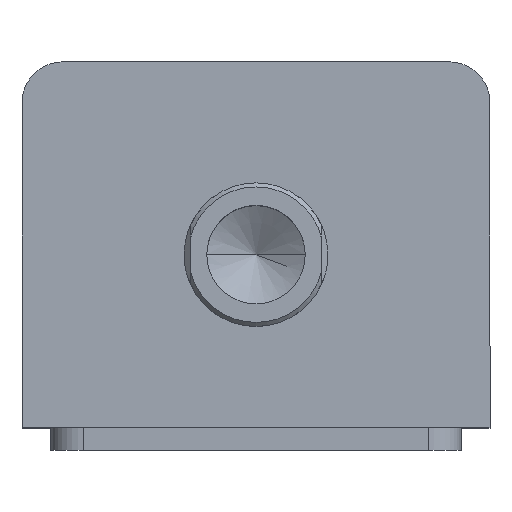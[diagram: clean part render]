
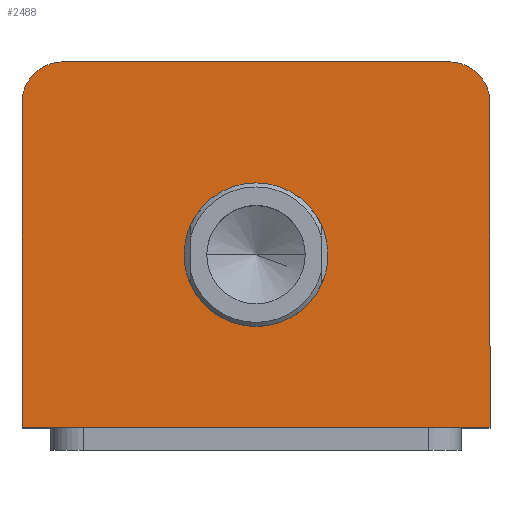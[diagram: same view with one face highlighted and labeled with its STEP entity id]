
A CAD part, top view. The second image highlights one B-rep face of the part: STEP entity #2488.
In plain terms, the highlighted planar face has unit normal (0, 0, 1).
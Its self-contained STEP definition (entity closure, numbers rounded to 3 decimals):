
#35 = CARTESIAN_POINT ( 'NONE',  ( -57., 44.5, 157. ) ) ;
#36 = DIRECTION ( 'NONE',  ( -1., 0., 0. ) ) ;
#67 = CARTESIAN_POINT ( 'NONE',  ( 47., 34.5, 157. ) ) ;
#68 = DIRECTION ( 'NONE',  ( 0., 0., 1. ) ) ;
#69 = DIRECTION ( 'NONE',  ( 1., 0., 0. ) ) ;
#94 = CARTESIAN_POINT ( 'NONE',  ( -47., 34.5, 157. ) ) ;
#95 = DIRECTION ( 'NONE',  ( 0., 0., 1. ) ) ;
#96 = DIRECTION ( 'NONE',  ( 1., 0., 0. ) ) ;
#104 = CARTESIAN_POINT ( 'NONE',  ( -57., 44.5, 157. ) ) ;
#105 = DIRECTION ( 'NONE',  ( 0., -1., 0. ) ) ;
#166 = CARTESIAN_POINT ( 'NONE',  ( -57., -44.5, 157. ) ) ;
#172 = DIRECTION ( 'NONE',  ( 1., 0., 0. ) ) ;
#189 = CARTESIAN_POINT ( 'NONE',  ( 0., -2.5, 157. ) ) ;
#190 = DIRECTION ( 'NONE',  ( 0., 0., 1. ) ) ;
#191 = DIRECTION ( 'NONE',  ( 1., 0., 0. ) ) ;
#195 = CARTESIAN_POINT ( 'NONE',  ( 0., -2.5, 157. ) ) ;
#196 = DIRECTION ( 'NONE',  ( 0., 0., 1. ) ) ;
#197 = DIRECTION ( 'NONE',  ( 1., 0., 0. ) ) ;
#210 = CARTESIAN_POINT ( 'NONE',  ( 57., 44.5, 157. ) ) ;
#211 = DIRECTION ( 'NONE',  ( 0., 1., 0. ) ) ;
#534 = CARTESIAN_POINT ( 'NONE',  ( -17.5, -2.5, 157. ) ) ;
#535 = CARTESIAN_POINT ( 'NONE',  ( -57., -44.5, 157. ) ) ;
#536 = CARTESIAN_POINT ( 'NONE',  ( 17.5, -2.5, 157. ) ) ;
#538 = CARTESIAN_POINT ( 'NONE',  ( 57., -44.5, 157. ) ) ;
#554 = CARTESIAN_POINT ( 'NONE',  ( 57., 34.5, 157. ) ) ;
#795 = EDGE_LOOP ( 'NONE', ( #967, #968 ) ) ;
#808 = EDGE_LOOP ( 'NONE', ( #969, #970, #971, #972, #973, #974 ) ) ;
#967 = ORIENTED_EDGE ( 'NONE', *, *, #1330, .F. ) ;
#968 = ORIENTED_EDGE ( 'NONE', *, *, #1332, .F. ) ;
#969 = ORIENTED_EDGE ( 'NONE', *, *, #3329, .T. ) ;
#970 = ORIENTED_EDGE ( 'NONE', *, *, #3351, .T. ) ;
#971 = ORIENTED_EDGE ( 'NONE', *, *, #3355, .T. ) ;
#972 = ORIENTED_EDGE ( 'NONE', *, *, #1323, .T. ) ;
#973 = ORIENTED_EDGE ( 'NONE', *, *, #1339, .T. ) ;
#974 = ORIENTED_EDGE ( 'NONE', *, *, #3342, .T. ) ;
#1217 = AXIS2_PLACEMENT_3D ( 'NONE', #195, #196, #197 ) ;
#1218 = AXIS2_PLACEMENT_3D ( 'NONE', #189, #190, #191 ) ;
#1323 = EDGE_CURVE ( 'NONE', #2177, #2180, #1835, .T. ) ;
#1330 = EDGE_CURVE ( 'NONE', #2178, #2176, #1560, .T. ) ;
#1332 = EDGE_CURVE ( 'NONE', #2176, #2178, #1562, .T. ) ;
#1339 = EDGE_CURVE ( 'NONE', #2180, #2196, #1574, .T. ) ;
#1414 = CARTESIAN_POINT ( 'NONE',  ( 47., 44.5, 157. ) ) ;
#1417 = CARTESIAN_POINT ( 'NONE',  ( -47., 44.5, 157. ) ) ;
#1425 = CARTESIAN_POINT ( 'NONE',  ( -57., 34.5, 157. ) ) ;
#1560 = CIRCLE ( 'NONE', #1218, 17.5 ) ;
#1562 = CIRCLE ( 'NONE', #1217, 17.5 ) ;
#1574 = LINE ( 'NONE', #210, #1577 ) ;
#1577 = VECTOR ( 'NONE', #211, 1000. ) ;
#1641 = FACE_BOUND ( 'NONE', #795, .T. ) ;
#1653 = FACE_OUTER_BOUND ( 'NONE', #808, .T. ) ;
#1835 = LINE ( 'NONE', #166, #1840 ) ;
#1840 = VECTOR ( 'NONE', #172, 1000. ) ;
#2176 = VERTEX_POINT ( 'NONE', #534 ) ;
#2177 = VERTEX_POINT ( 'NONE', #535 ) ;
#2178 = VERTEX_POINT ( 'NONE', #536 ) ;
#2180 = VERTEX_POINT ( 'NONE', #538 ) ;
#2196 = VERTEX_POINT ( 'NONE', #554 ) ;
#2208 = VERTEX_POINT ( 'NONE', #1414 ) ;
#2211 = VERTEX_POINT ( 'NONE', #1417 ) ;
#2219 = VERTEX_POINT ( 'NONE', #1425 ) ;
#2347 = LINE ( 'NONE', #35, #2350 ) ;
#2350 = VECTOR ( 'NONE', #36, 1000. ) ;
#2363 = CIRCLE ( 'NONE', #3173, 10. ) ;
#2376 = CIRCLE ( 'NONE', #3195, 10. ) ;
#2382 = LINE ( 'NONE', #104, #2385 ) ;
#2385 = VECTOR ( 'NONE', #105, 1000. ) ;
#2488 = ADVANCED_FACE ( 'NONE', ( #1641, #1653 ), #2864, .T. ) ;
#2861 = CARTESIAN_POINT ( 'NONE',  ( 0., 0., 157. ) ) ;
#2864 = PLANE ( 'NONE',  #3300 ) ;
#2866 = DIRECTION ( 'NONE',  ( 0., 0., 1. ) ) ;
#2867 = DIRECTION ( 'NONE',  ( 1., 0., 0. ) ) ;
#3173 = AXIS2_PLACEMENT_3D ( 'NONE', #67, #68, #69 ) ;
#3195 = AXIS2_PLACEMENT_3D ( 'NONE', #94, #95, #96 ) ;
#3300 = AXIS2_PLACEMENT_3D ( 'NONE', #2861, #2866, #2867 ) ;
#3329 = EDGE_CURVE ( 'NONE', #2208, #2211, #2347, .T. ) ;
#3342 = EDGE_CURVE ( 'NONE', #2196, #2208, #2363, .T. ) ;
#3351 = EDGE_CURVE ( 'NONE', #2211, #2219, #2376, .T. ) ;
#3355 = EDGE_CURVE ( 'NONE', #2219, #2177, #2382, .T. ) ;
